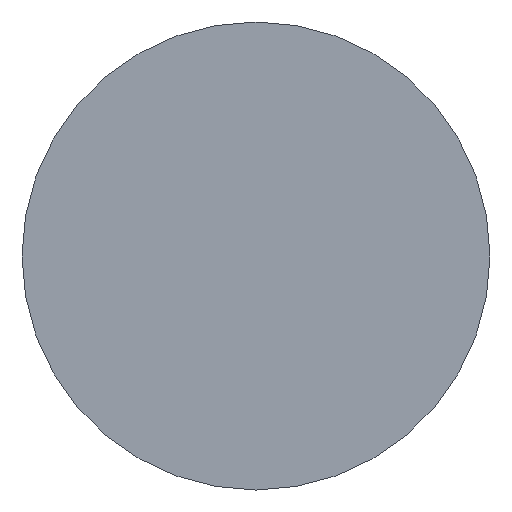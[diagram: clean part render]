
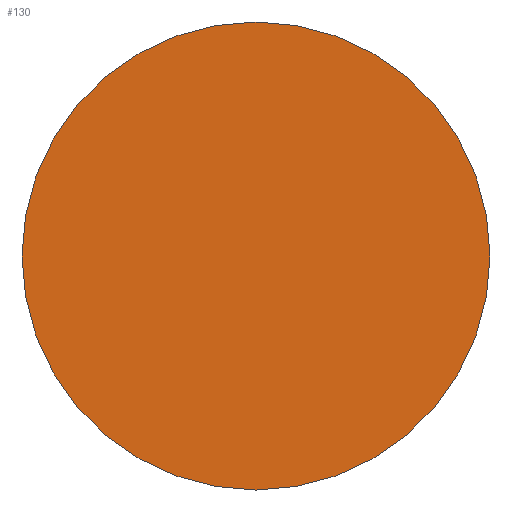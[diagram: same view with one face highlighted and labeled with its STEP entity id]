
A CAD part, left-side view. The second image highlights one B-rep face of the part: STEP entity #130.
In plain terms, the highlighted planar face has unit normal (-1, 0, 0).
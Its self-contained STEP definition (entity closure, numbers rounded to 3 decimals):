
#130=ADVANCED_FACE($,(#136),#132,.T.);
#132=PLANE($,#157);
#136=FACE_OUTER_BOUND($,#140,.T.);
#140=EDGE_LOOP($,(#150));
#141=CIRCLE($,#154,2.591);
#143=VERTEX_POINT('',#172);
#145=EDGE_CURVE($,#143,#143,#141,.T.);
#150=ORIENTED_EDGE($,*,*,#145,.T.);
#154=AXIS2_PLACEMENT_3D($,#173,#162,#163);
#157=AXIS2_PLACEMENT_3D($,#177,#168,#169);
#162=DIRECTION('',(-1.,0.,0.));
#163=DIRECTION('',(0.,0.,1.));
#168=DIRECTION('',(-1.,0.,0.));
#169=DIRECTION('',(0.,1.,0.));
#172=CARTESIAN_POINT('',(-10.122,0.0,0.0));
#173=CARTESIAN_POINT('',(-10.122,0.0,2.591));
#177=CARTESIAN_POINT('',(-10.122,0.0,2.591));
